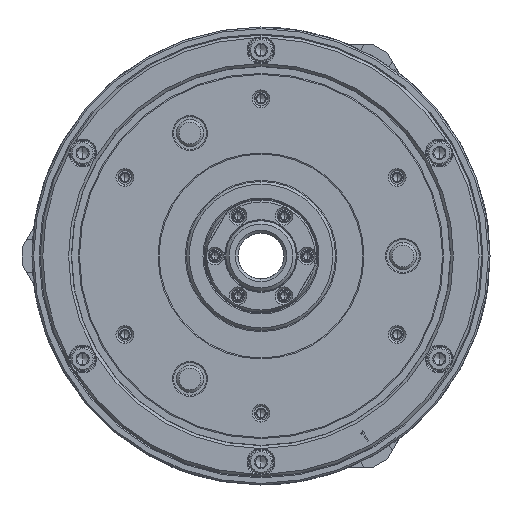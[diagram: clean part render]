
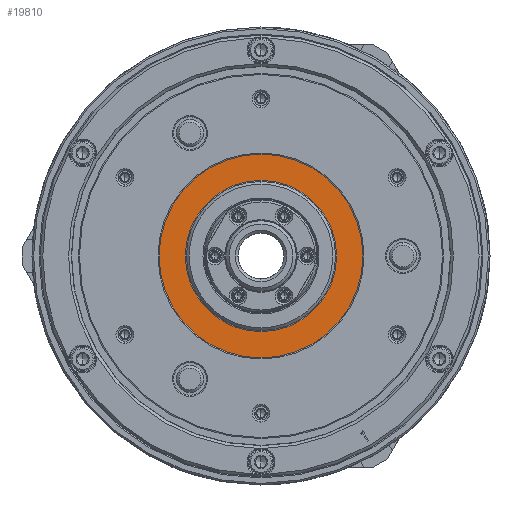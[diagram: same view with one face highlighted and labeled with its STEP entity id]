
A CAD part, left-side view. The second image highlights one B-rep face of the part: STEP entity #19810.
In plain terms, the highlighted planar face has unit normal (-1, 0, 0) as drawn and (0, 0, -1) by its records, which use the part's own axes.
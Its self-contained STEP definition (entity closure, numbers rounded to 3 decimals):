
#6588 = AXIS2_PLACEMENT_3D ( 'NONE', #25169, #86547, #101170 ) ;
#17749 = AXIS2_PLACEMENT_3D ( 'NONE', #129498, #73943, #84666 ) ;
#19810 = ADVANCED_FACE ( 'NONE', ( #176470, #87784 ), #39131, .F. ) ;
#21241 = AXIS2_PLACEMENT_3D ( 'NONE', #31033, #147984, #164492 ) ;
#25169 = CARTESIAN_POINT ( 'NONE',  ( 0., 0., -99.8 ) ) ;
#31033 = CARTESIAN_POINT ( 'NONE',  ( 0., 0., -99.8 ) ) ;
#33577 = ORIENTED_EDGE ( 'NONE', *, *, #138385, .F. ) ;
#38509 = VERTEX_POINT ( 'NONE', #47231 ) ;
#39131 = PLANE ( 'NONE',  #70862 ) ;
#40562 = AXIS2_PLACEMENT_3D ( 'NONE', #143358, #130697, #160904 ) ;
#46122 = CIRCLE ( 'NONE', #21241, 27.9 ) ;
#47231 = CARTESIAN_POINT ( 'NONE',  ( 37.616, 0., -99.8 ) ) ;
#47819 = EDGE_CURVE ( 'NONE', #89294, #161102, #126602, .T. ) ;
#55203 = CARTESIAN_POINT ( 'NONE',  ( -27.9, 0., -99.8 ) ) ;
#70862 = AXIS2_PLACEMENT_3D ( 'NONE', #147222, #163724, #181233 ) ;
#73943 = DIRECTION ( 'NONE',  ( 0., 0., -1. ) ) ;
#84666 = DIRECTION ( 'NONE',  ( 1., 0., 0. ) ) ;
#86547 = DIRECTION ( 'NONE',  ( 0., 0., 1. ) ) ;
#87784 = FACE_BOUND ( 'NONE', #192110, .T. ) ;
#89294 = VERTEX_POINT ( 'NONE', #186870 ) ;
#90576 = CIRCLE ( 'NONE', #6588, 37.616 ) ;
#101170 = DIRECTION ( 'NONE',  ( 1., 0., 0. ) ) ;
#126602 = CIRCLE ( 'NONE', #17749, 27.9 ) ;
#129498 = CARTESIAN_POINT ( 'NONE',  ( 0., 0., -99.8 ) ) ;
#130697 = DIRECTION ( 'NONE',  ( 0., 0., 1. ) ) ;
#130906 = CARTESIAN_POINT ( 'NONE',  ( -37.616, 0., -99.8 ) ) ;
#132777 = EDGE_CURVE ( 'NONE', #161102, #89294, #46122, .T. ) ;
#138385 = EDGE_CURVE ( 'NONE', #165840, #38509, #90576, .T. ) ;
#143358 = CARTESIAN_POINT ( 'NONE',  ( 0., 0., -99.8 ) ) ;
#147222 = CARTESIAN_POINT ( 'NONE',  ( 0., -38., -99.8 ) ) ;
#147984 = DIRECTION ( 'NONE',  ( 0., 0., -1. ) ) ;
#160904 = DIRECTION ( 'NONE',  ( 1., 0., 0. ) ) ;
#161102 = VERTEX_POINT ( 'NONE', #55203 ) ;
#161849 = CIRCLE ( 'NONE', #40562, 37.616 ) ;
#163724 = DIRECTION ( 'NONE',  ( 0., 0., 1. ) ) ;
#164492 = DIRECTION ( 'NONE',  ( 1., 0., 0. ) ) ;
#165840 = VERTEX_POINT ( 'NONE', #130906 ) ;
#166968 = EDGE_CURVE ( 'NONE', #38509, #165840, #161849, .T. ) ;
#172009 = ORIENTED_EDGE ( 'NONE', *, *, #47819, .F. ) ;
#172946 = ORIENTED_EDGE ( 'NONE', *, *, #132777, .F. ) ;
#174353 = ORIENTED_EDGE ( 'NONE', *, *, #166968, .F. ) ;
#176470 = FACE_OUTER_BOUND ( 'NONE', #187463, .T. ) ;
#181233 = DIRECTION ( 'NONE',  ( 1., 0., 0. ) ) ;
#186870 = CARTESIAN_POINT ( 'NONE',  ( 27.9, 0., -99.8 ) ) ;
#187463 = EDGE_LOOP ( 'NONE', ( #33577, #174353 ) ) ;
#192110 = EDGE_LOOP ( 'NONE', ( #172009, #172946 ) ) ;
